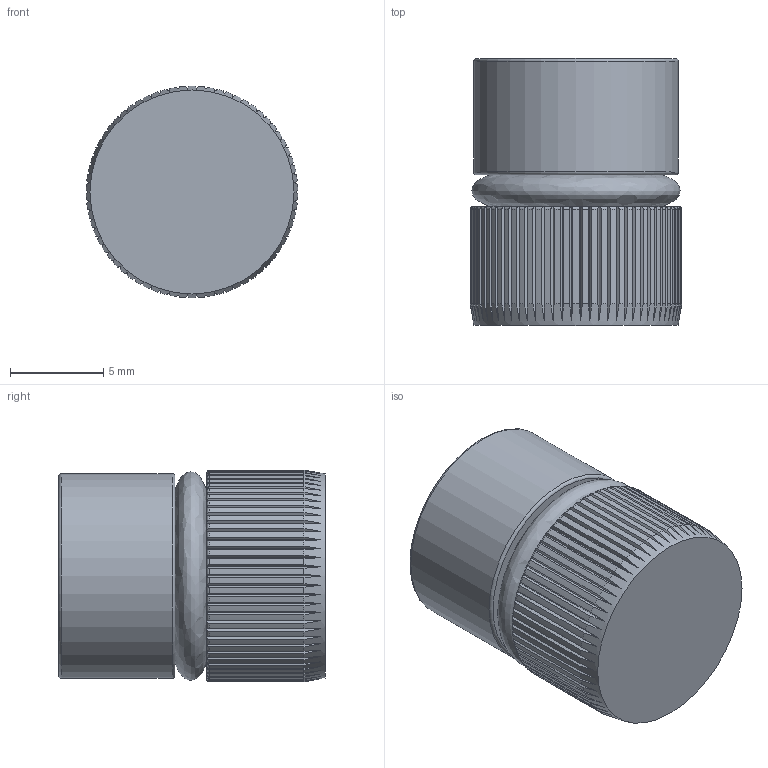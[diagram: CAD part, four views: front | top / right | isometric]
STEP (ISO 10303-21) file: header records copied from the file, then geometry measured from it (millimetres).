
FILE_DESCRIPTION(/* description */ (''),/* implementation_level */ '2;1');
FILE_NAME(/* name */ 'C:/Users/drich/Desktop/BTP-20-OS v1.step',/* time_stamp */ '2020-01-08T20:08:26-06:00',/* author */ (''),/* organization */ (''),/* preprocessor_version */ 'ST-DEVELOPER v18',/* originating_system */ 'Autodesk Translation Framework v8.12.0.6',/* authorisation */ '');
FILE_SCHEMA (('AUTOMOTIVE_DESIGN { 1 0 10303 214 3 1 1 }'));
Length unit declared in the file: inch
Products named in the file (1): BTP-20-OS
Bounding box: 11.33 x 14.27 x 11.33 mm (x, y, z)
Volume: 1339.8 mm3; surface area: 1298.2 mm2
Topology: 3 solids, 3 shells, 306 faces, 900 edges, 602 vertices
Faces by surface type: plane 154, torus 74, cylinder 72, cone 3, bspline 3
Full cylindrical faces by diameter (mm): 4.572 x1, 10.973 x1
Entity records: 11211 total; most frequent: CARTESIAN_POINT 3479, ORIENTED_EDGE 1796, DIRECTION 1471, EDGE_CURVE 898, VERTEX_POINT 602, AXIS2_PLACEMENT_3D 549, LINE 373, VECTOR 373
